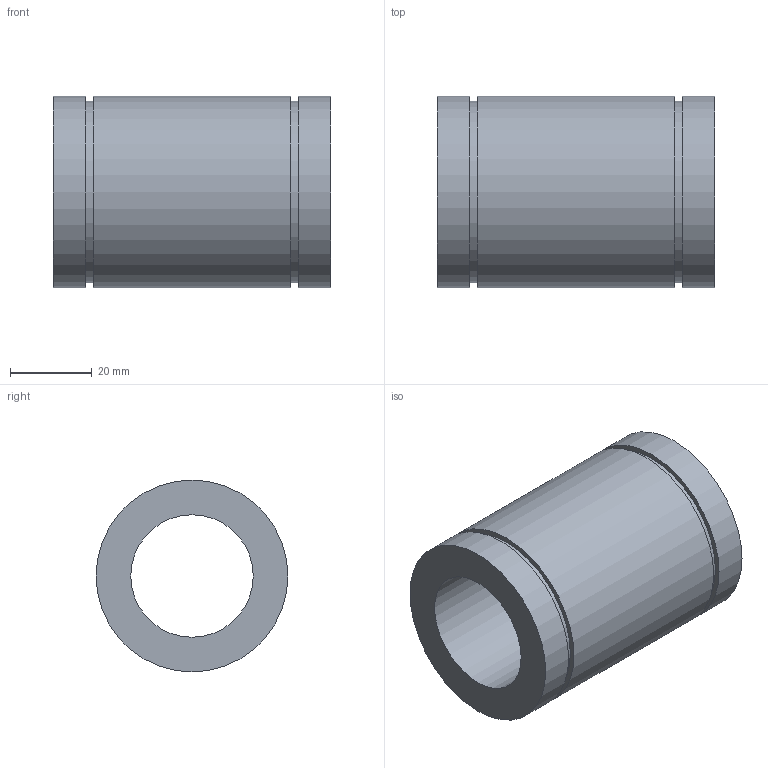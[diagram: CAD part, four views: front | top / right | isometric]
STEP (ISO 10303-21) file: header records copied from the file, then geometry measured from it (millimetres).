
FILE_DESCRIPTION( ( 'STEP AP203' ), '1' );
FILE_NAME( 'p:/temp/worker_107/temp/exporttempdir_1032_458_RQ8EB/format_0/LME30UU.stp', '2020-04-29T03:07:16', ( 'License CC BY-ND 4.0' ), ( 'CADENAS' ), ' ', 'PARTsolutions', ' ' );
FILE_SCHEMA( ( 'CONFIG_CONTROL_DESIGN' ) );
Length unit declared in the file: millimetre
Products named in the file (1): _LME30UU
Bounding box: 68 x 47 x 47 mm (x, y, z)
Volume: 69245.1 mm3; surface area: 19195.1 mm2
Topology: 1 solids, 1 shells, 12 faces, 18 edges, 12 vertices
Faces by surface type: plane 6, cylinder 6
Full cylindrical faces by diameter (mm): 30 x1, 44.5 x2, 47 x3
Entity records: 292 total; most frequent: DIRECTION 50, CARTESIAN_POINT 37, AXIS2_PLACEMENT_3D 25, EDGE_LOOP 24, ORIENTED_EDGE 24, FACE_OUTER_BOUND 18, ADVANCED_FACE 12, EDGE_CURVE 12
